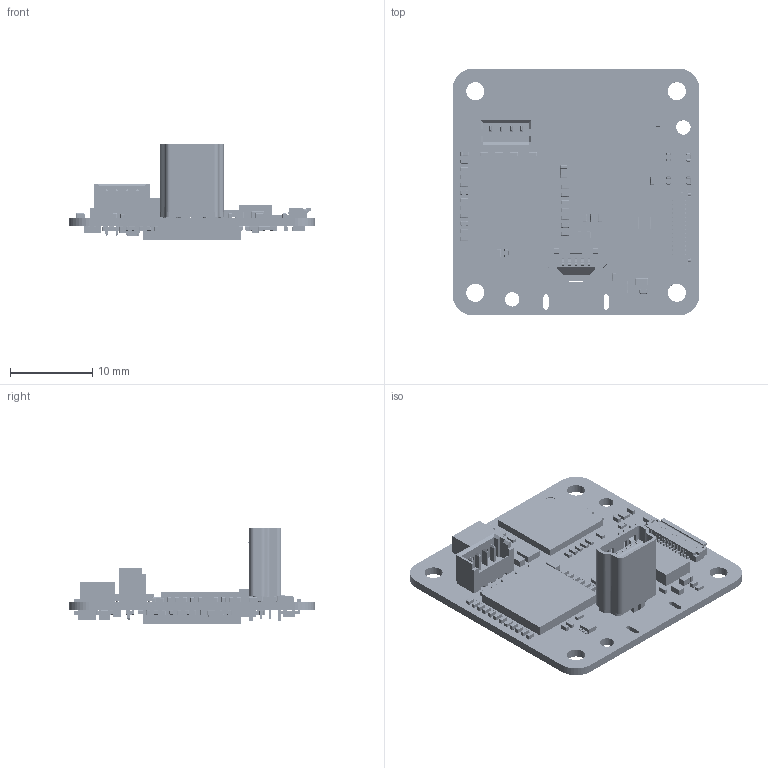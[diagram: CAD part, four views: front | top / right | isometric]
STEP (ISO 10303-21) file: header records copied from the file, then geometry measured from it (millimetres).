
FILE_DESCRIPTION(('Open CASCADE Model'),'2;1');
FILE_NAME('Open CASCADE Shape Model','2024-03-08T17:41:42',('Author'),( 'Open CASCADE'),'Open CASCADE STEP processor 6.8','Open CASCADE 6.8' ,'Unknown');
FILE_SCHEMA(('AUTOMOTIVE_DESIGN { 1 0 10303 214 1 1 1 1 }'));
Length unit declared in the file: millimetre
Products named in the file (252): PCB; Board; Open CASCADE STEP translator 6.8 1.1.1; J2x; TE-Micro-USB2-1734753-1-a-3d; U1; 7166208608; Extruded; 7166208448; C95; TIS_0402C_L025_H06; C94; C37; C36; TIS_0402C_L025_H05; C34; R5; TIS_0402R_L02_H04; R4; C51; C50; C49; C45; C40; C39; U11; 6577573280; U8; U12; C113; TIS_0603C_L04_H08; C114; R39; 7274241360; J3; FH33-14S-0.5SH; U6; 7274253440; C64; C44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
Assembly tree (903 placements, depth 5):
  PCB
    Board
      Open CASCADE STEP translator 6.8 1.1.1
    J2x
      TE-Micro-USB2-1734753-1-a-3d
    U1
      7166208608
        Extruded
      7166208448
        Extruded
    C95
      TIS_0402C_L025_H06
      TIS_0402C_L025_H06
      TIS_0402C_L025_H06
    C94
      TIS_0402C_L025_H06
      TIS_0402C_L025_H06
      TIS_0402C_L025_H06
    C37
      TIS_0402C_L025_H06
      TIS_0402C_L025_H06
      TIS_0402C_L025_H06
    C36
      TIS_0402C_L025_H05
      TIS_0402C_L025_H05
      TIS_0402C_L025_H05
    C34
      TIS_0402C_L025_H05
      TIS_0402C_L025_H05
      TIS_0402C_L025_H05
    R5
      TIS_0402R_L02_H04
      TIS_0402R_L02_H04
      TIS_0402R_L02_H04
      TIS_0402R_L02_H04
    R4
      TIS_0402R_L02_H04
      TIS_0402R_L02_H04
      TIS_0402R_L02_H04
      TIS_0402R_L02_H04
    C51
      TIS_0402C_L025_H06
      TIS_0402C_L025_H06
      TIS_0402C_L025_H06
    C50
      TIS_0402C_L025_H06
      TIS_0402C_L025_H06
      TIS_0402C_L025_H06
    C49
      TIS_0402C_L025_H05
      TIS_0402C_L025_H05
      TIS_0402C_L025_H05
    C45
      TIS_0402C_L025_H05
      TIS_0402C_L025_H05
      TIS_0402C_L025_H05
    C40
      TIS_0402C_L025_H05
      TIS_0402C_L025_H05
      TIS_0402C_L025_H05
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Bounding box: 30.01 x 30 x 11.63 mm (x, y, z)
Volume: 1699.6 mm3; surface area: 4587.2 mm2
Topology: 700 solids, 701 shells, 10297 faces, 23707 edges, 13537 vertices
Faces by surface type: plane 4379, cylinder 3801, sphere 1145, torus 968, cone 4
Full cylindrical faces by diameter (mm): 0.5 x4, 1.125 x1, 1.75 x2, 2.2 x4
Entity records: 59457 total; most frequent: DIRECTION 9982, CARTESIAN_POINT 9625, ORIENTED_EDGE 8481, EDGE_CURVE 4241, LINE 3560, VECTOR 3560, AXIS2_PLACEMENT_3D 3211, VERTEX_POINT 2738
